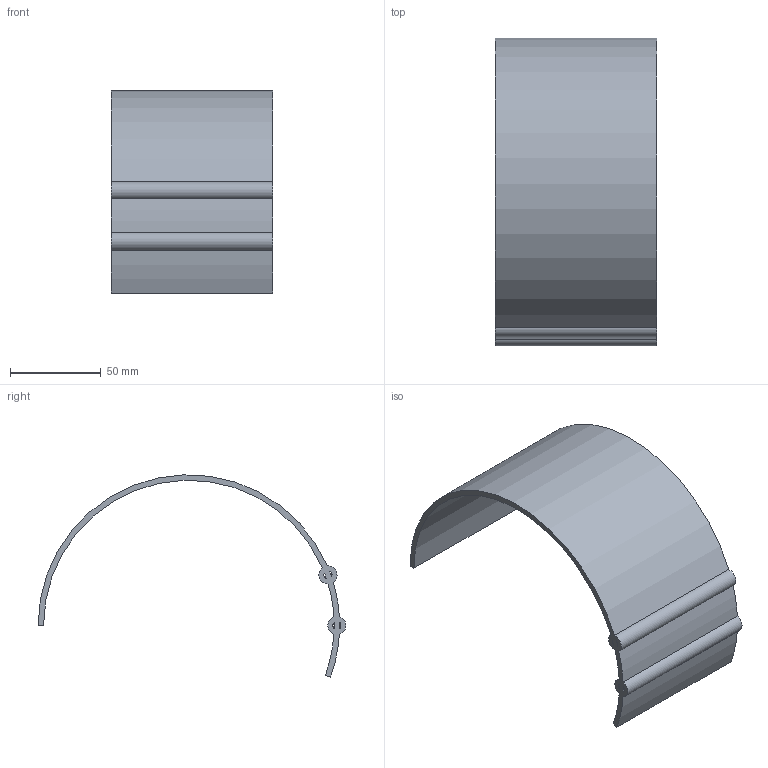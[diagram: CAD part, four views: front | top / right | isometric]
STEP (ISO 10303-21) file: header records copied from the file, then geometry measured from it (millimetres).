
FILE_DESCRIPTION(('Open CASCADE Model'),'2;1');
FILE_NAME('Open CASCADE Shape Model','2026-10-06T19:56:09',('Author'),( 'Open CASCADE'),'Open CASCADE STEP processor 7.9','Open CASCADE 7.9' ,'Unknown');
FILE_SCHEMA(('AUTOMOTIVE_DESIGN { 1 0 10303 214 1 1 1 1 }'));
Length unit declared in the file: millimetre
Products named in the file (1): Open CASCADE STEP translator 7.9 20
Bounding box: 89 x 169.48 x 111.34 mm (x, y, z)
Volume: 84058.8 mm3; surface area: 56713.8 mm2
Topology: 1 solids, 1 shells, 22 faces, 60 edges, 40 vertices
Faces by surface type: cylinder 18, plane 4
Entity records: 1536 total; most frequent: CARTESIAN_POINT 359, DIRECTION 216, ORIENTED_EDGE 120, PCURVE 120, DEFINITIONAL_REPRESENTATION 120, LINE 76, VECTOR 76, EDGE_CURVE 60
